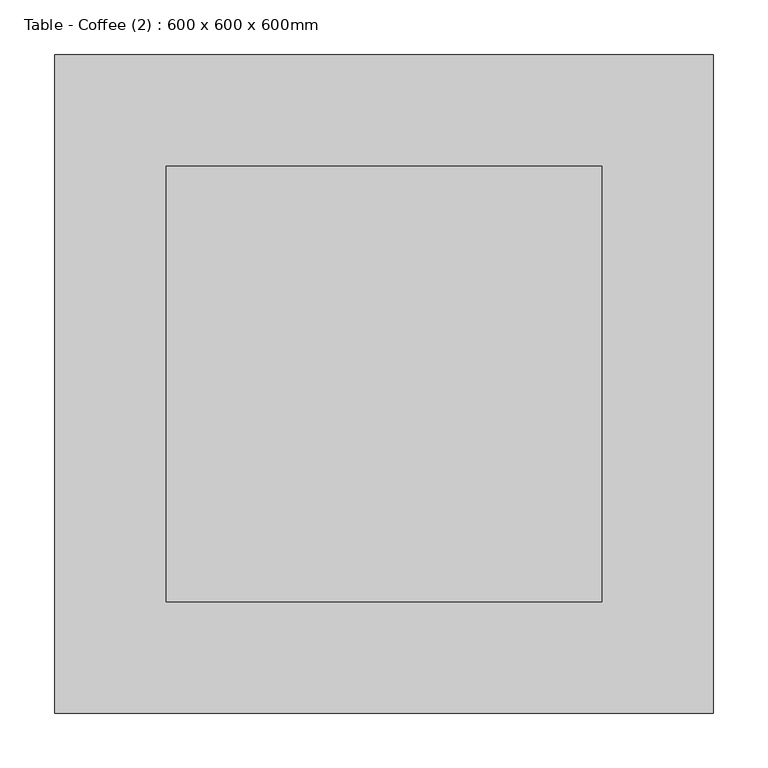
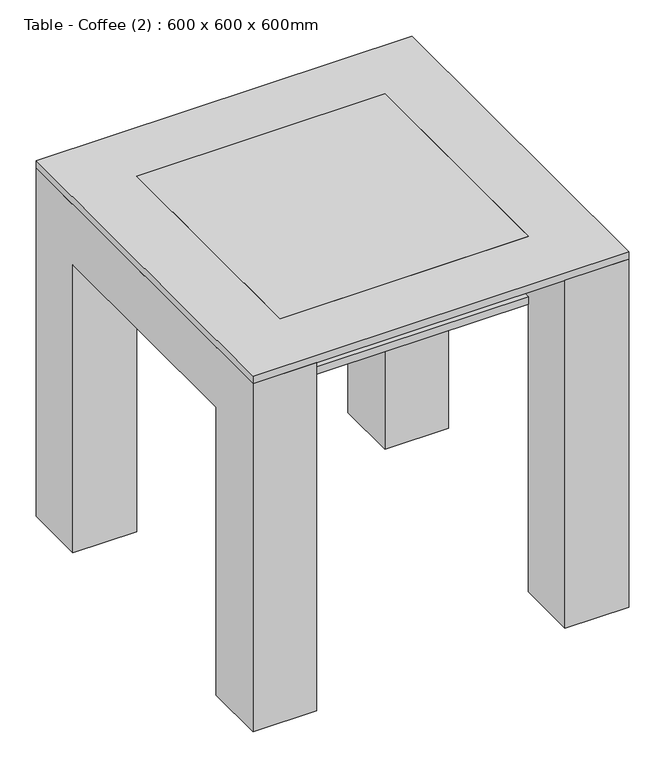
"""IFC4 building model written with IfcOpenShell, lengths in millimetres: furniture geometry, Table - Coffee (2) : 600 x 600 x 600mm."""

import ifcopenshell
import ifcopenshell.guid

model = None  # the IFC model being written
_history = None  # IfcOwnerHistory: only IFC2X3 demands one
_inside = {}  # id of a spatial element -> (the spatial element, [elements in it])
_under = {}  # id of a project, library or spatial element -> (it, [spatial elements below it])
_declared = {}  # id of a project -> (the project, [libraries it declares])
_typed = {}  # id of a type object -> (the type object, [elements of that type])
_made_of = {}  # id of a material, layer set ... -> (it, [elements and type objects made of it])


def new_model(schema):
    """Start an empty IFC model of exactly this schema.

    Asked for "IFC4X3", IfcOpenShell would pick the latest addendum, in which some entities
    have other attributes; the version numbers below select the first issue.
    IFC2X3 requires an IfcOwnerHistory on every rooted entity: one is made here for all.
    """
    global model, _history
    if schema == "IFC4X3":
        model = ifcopenshell.file(schema_version=(4, 3, 0, 0))
    else:
        model = ifcopenshell.file(schema=schema)
    _inside.clear()
    _under.clear()
    _declared.clear()
    _typed.clear()
    _made_of.clear()
    _history = None
    if model.schema == "IFC2X3":
        org = make("IfcOrganization", Name="unknown")
        user = make(
            "IfcPersonAndOrganization",
            ThePerson=make("IfcPerson", FamilyName="unknown"),
            TheOrganization=org,
        )
        app = make(
            "IfcApplication",
            ApplicationDeveloper=org,
            Version="unknown",
            ApplicationFullName="unknown",
            ApplicationIdentifier="unknown",
        )
        _history = make(
            "IfcOwnerHistory",
            OwningUser=user,
            OwningApplication=app,
            ChangeAction="ADDED",
            CreationDate=0,
        )
    return model


def make(cls, **values):
    """One entity of the class cls with the attributes given. An attribute that is None is left unset."""
    return model.create_entity(
        cls, **{name: value for name, value in values.items() if value is not None}
    )


def rooted(cls, **values):
    """An entity with a GlobalId (a new one), such as an element, a storey or a relation."""
    return make(cls, GlobalId=ifcopenshell.guid.new(), OwnerHistory=_history, **values)


def si_unit(unit_type, name, prefix=None):
    """IfcSIUnit, for example si_unit("LENGTHUNIT", "METRE", prefix="MILLI")."""
    return make("IfcSIUnit", UnitType=unit_type, Prefix=prefix, Name=name)


def assignment(units):
    """IfcUnitAssignment: the units of a project."""
    return None if units is None else make("IfcUnitAssignment", Units=units)


def point(xyz):
    """IfcCartesianPoint."""
    return None if xyz is None else make("IfcCartesianPoint", Coordinates=xyz)


def direction(xyz):
    """IfcDirection."""
    return None if xyz is None else make("IfcDirection", DirectionRatios=xyz)


def frame(location, z_axis=None, x_axis=None):
    """IfcAxis2Placement3D, a coordinate frame: its origin and axes. An axis left out is left unset."""
    return make(
        "IfcAxis2Placement3D",
        Location=point(location),
        Axis=direction(z_axis),
        RefDirection=direction(x_axis),
    )


def origin():
    """The frame at (0, 0, 0) with its axes left unset."""
    return frame((0.0, 0.0, 0.0))


def place(relative_to, where):
    """IfcLocalPlacement: puts the frame where relative to a parent placement (None: the world)."""
    return make(
        "IfcLocalPlacement", PlacementRelTo=relative_to, RelativePlacement=where
    )


def context(
    kind, dimensions, precision=None, world=None, true_north=None, identifier=None
):
    """IfcGeometricRepresentationContext, for example the 3D "Model" context."""
    return make(
        "IfcGeometricRepresentationContext",
        ContextIdentifier=identifier,
        ContextType=kind,
        CoordinateSpaceDimension=dimensions,
        Precision=precision,
        WorldCoordinateSystem=world,
        TrueNorth=true_north,
    )


def project(units=None, contexts=None):
    """IfcProject with its units and contexts."""
    return rooted(
        "IfcProject",
        Name="project",
        RepresentationContexts=contexts,
        UnitsInContext=assignment(units),
    )


def spatial(cls, under=None, at=None, **own):
    """A site, building, storey or space (cls), placed at a placement, below another one or the project."""
    s = rooted(cls, ObjectPlacement=at, **own)
    if under is not None:
        _under.setdefault(under.id(), (under, []))[1].append(s)
    return s


def polyline(points):
    """IfcPolyline through the points."""
    return make("IfcPolyline", Points=[point(p) for p in points])


def outline(outer, holes=None, kind="AREA"):
    """IfcArbitraryClosedProfileDef: a profile drawn as a closed curve; with holes, ...WithVoids."""
    if holes is None:
        return make("IfcArbitraryClosedProfileDef", ProfileType=kind, OuterCurve=outer)
    return make(
        "IfcArbitraryProfileDefWithVoids",
        ProfileType=kind,
        OuterCurve=outer,
        InnerCurves=holes,
    )


def extrude(swept, where, along, depth):
    """IfcExtrudedAreaSolid: the profile swept, set in the frame where, extruded along a direction by depth."""
    return make(
        "IfcExtrudedAreaSolid",
        SweptArea=swept,
        Position=where,
        ExtrudedDirection=direction(along),
        Depth=depth,
    )


def shape(context_of_items, identifier, shape_type, items):
    """IfcShapeRepresentation: the items that make up one representation, for example the "Body"."""
    return make(
        "IfcShapeRepresentation",
        ContextOfItems=context_of_items,
        RepresentationIdentifier=identifier,
        RepresentationType=shape_type,
        Items=items,
    )


def source(mapping_origin, context_of_items, identifier, shape_type, items):
    """IfcRepresentationMap: a shape defined once, which mapped items show again and again."""
    return make(
        "IfcRepresentationMap",
        MappingOrigin=mapping_origin,
        MappedRepresentation=shape(context_of_items, identifier, shape_type, items),
    )


def transform(
    local_origin,
    x_axis=None,
    y_axis=None,
    z_axis=None,
    scale=None,
    scale2=None,
    scale3=None,
    uniform=True,
):
    """IfcCartesianTransformationOperator3D, or its non-uniform kind. x_axis, y_axis, z_axis: its Axis1, 2, 3."""
    if uniform:
        return make(
            "IfcCartesianTransformationOperator3D",
            Axis1=direction(x_axis),
            Axis2=direction(y_axis),
            LocalOrigin=point(local_origin),
            Scale=scale,
            Axis3=direction(z_axis),
        )
    return make(
        "IfcCartesianTransformationOperator3DnonUniform",
        Axis1=direction(x_axis),
        Axis2=direction(y_axis),
        LocalOrigin=point(local_origin),
        Scale=scale,
        Axis3=direction(z_axis),
        Scale2=scale2,
        Scale3=scale3,
    )


def mapped(mapping_source, mapping_target):
    """IfcMappedItem: shows the shape of a source again, moved by a transform."""
    return make(
        "IfcMappedItem", MappingSource=mapping_source, MappingTarget=mapping_target
    )


def made_of(thing, what):
    """Note that an element or type object is made of a material, layer set ...; save() writes the relation."""
    if what is not None:
        _made_of.setdefault(what.id(), (what, []))[1].append(thing)
    return thing


def element(
    cls,
    number,
    at=None,
    inside=None,
    cuts=None,
    type_object=None,
    material=None,
    context=None,
    identifier="Body",
    shape_type=None,
    held_by="IfcProductDefinitionShape",
    body=None,
    shapes=None,
    **own,
):
    """One element of the class cls, such as IfcWall. Its Tag is "e" and its number.

    at: its placement. inside: the storey or other place that contains it. cuts: it is an
    opening in that element (IfcRelVoidsElement). A single representation is given by context,
    identifier, shape_type and body (its items); several are given by shapes. held_by: the class
    of the entity that holds the representations. save() writes the other relations.
    """
    e = rooted(cls, Tag="e%d" % number, ObjectPlacement=at, **own)
    if body is not None:
        shapes = [shape(context, identifier, shape_type, body)]
    if shapes is not None:
        e.Representation = make(held_by, Representations=shapes)
    if inside is not None:
        _inside.setdefault(inside.id(), (inside, []))[1].append(e)
    if cuts is not None:
        rooted(
            "IfcRelVoidsElement", RelatingBuildingElement=cuts, RelatedOpeningElement=e
        )
    if type_object is not None:
        _typed.setdefault(type_object.id(), (type_object, []))[1].append(e)
    return made_of(e, material)


def aggregate(whole, parts):
    """IfcRelAggregates: a whole, such as a stair, and the parts it consists of."""
    return rooted("IfcRelAggregates", RelatingObject=whole, RelatedObjects=parts)


def save(model, path):
    """Write the relations noted so far, then the file.

    IfcRelAggregates (storeys below a building ...), IfcRelContainedInSpatialStructure (elements
    in a storey), IfcRelDefinesByType, IfcRelAssociatesMaterial and IfcRelDeclares: one each for
    every whole, place, type object, material and project.
    """
    for whole, parts in _under.values():
        aggregate(whole, parts)
    for where, things in _inside.values():
        rooted(
            "IfcRelContainedInSpatialStructure",
            RelatedElements=things,
            RelatingStructure=where,
        )
    for kind, things in _typed.values():
        rooted("IfcRelDefinesByType", RelatedObjects=things, RelatingType=kind)
    for what, things in _made_of.values():
        rooted("IfcRelAssociatesMaterial", RelatedObjects=things, RelatingMaterial=what)
    for by, libraries in _declared.values():
        rooted("IfcRelDeclares", RelatingContext=by, RelatedDefinitions=libraries)
    model.write(path)


def table_coffee_2_600_x_600_x_600mm_3ebcfe62(model_context):
    return source(origin(), model_context, "Body", "SweptSolid", [
        extrude(outline(polyline([(216.6657667, 293.6110778), (216.6657667, -103.1889222), (-180.1342333, -103.1889222), (-180.1342333, 293.6110778), (216.6657667, 293.6110778)])), frame((0.0, 0.0, 485.7), z_axis=(0.0, 0.0, 1.0), x_axis=(1.0, 0.0, 0.0)), (0.0, 0.0, 1.0), 12.7),
        extrude(outline(polyline([(395.2110778, 0.0), (293.6110778, 0.0), (293.6110778, 485.7), (-103.1889222, 485.7), (-103.1889222, 0.0), (-204.7889222, 0.0), (-204.7889222, 587.3), (395.2110778, 587.3), (395.2110778, 0.0)])), frame((216.6657667, 0.0, 0.0), z_axis=(1.0, 0.0, 0.0), x_axis=(0.0, 1.0, 0.0)), (0.0, 0.0, 1.0), 101.6),
        extrude(outline(polyline([(395.2110778, 587.3), (395.2110778, 0.0), (293.6110778, 0.0), (293.6110778, 485.7), (-103.1889222, 485.7), (-103.1889222, 0.0), (-204.7889222, 0.0), (-204.7889222, 587.3), (395.2110778, 587.3)])), frame((-281.7342333, 0.0, 0.0), z_axis=(1.0, 0.0, 0.0), x_axis=(0.0, 1.0, 0.0)), (0.0, 0.0, 1.0), 101.6),
        extrude(outline(polyline([(216.6657667, 293.6110778), (216.6657667, -103.1889222), (-180.1342333, -103.1889222), (-180.1342333, 293.6110778), (216.6657667, 293.6110778)])), frame((0.0, 0.0, 587.3), z_axis=(0.0, 0.0, 1.0), x_axis=(1.0, 0.0, 0.0)), (0.0, 0.0, 1.0), 12.7),
        extrude(outline(polyline([(318.2657667, 395.2110778), (318.2657667, -204.7889222), (-281.7342333, -204.7889222), (-281.7342333, 395.2110778), (318.2657667, 395.2110778)]), holes=[polyline([(216.6657667, 293.6110778), (-180.1342333, 293.6110778), (-180.1342333, -103.1889222), (216.6657667, -103.1889222), (216.6657667, 293.6110778)])]), frame((0.0, 0.0, 587.3), z_axis=(0.0, 0.0, 1.0), x_axis=(1.0, 0.0, 0.0)), (0.0, 0.0, 1.0), 12.7),
    ])


if __name__ == "__main__":
    model = new_model("IFC4")
    model_context = context("Model", 3, world=origin())
    ifc_project = project(units=[si_unit("LENGTHUNIT", "METRE", prefix="MILLI")], contexts=[model_context])
    site = spatial("IfcSite", under=ifc_project)
    building = spatial("IfcBuilding", under=site)
    placement = place(None, origin())
    table_coffee_2_600_x_600_x_600mm_shape = table_coffee_2_600_x_600_x_600mm_3ebcfe62(model_context)
    element("IfcFurniture", 1, ObjectType="Table - Coffee (2) : 600 x 600 x 600mm", at=placement, inside=building, context=model_context, shape_type="MappedRepresentation", body=[
        mapped(table_coffee_2_600_x_600_x_600mm_shape, transform((0.0, 0.0, 0.0), x_axis=(1.0, 0.0, 0.0), y_axis=(0.0, 1.0, 0.0), z_axis=(0.0, 0.0, 1.0))),
    ])
    save(model, "model.ifc")
